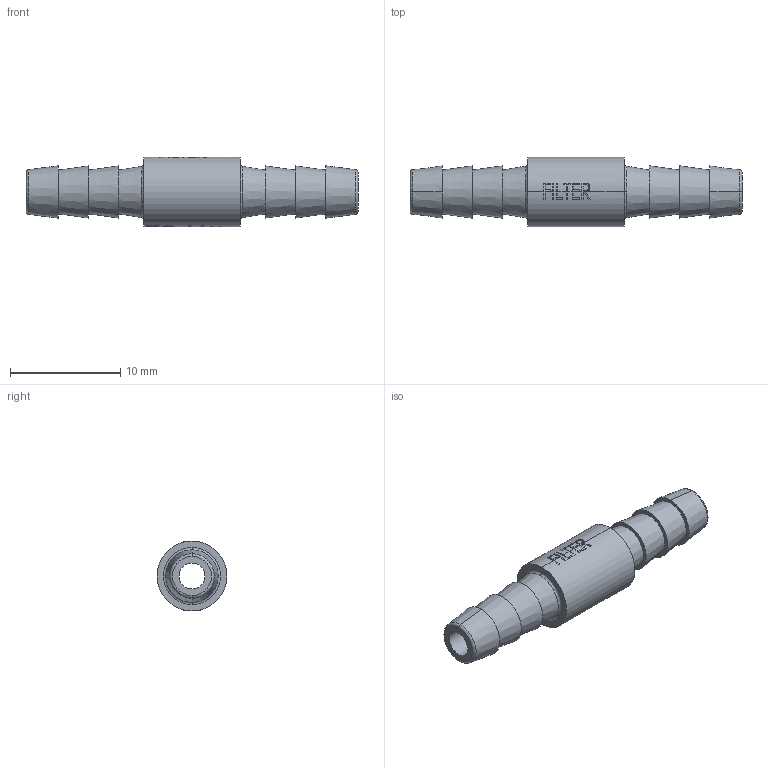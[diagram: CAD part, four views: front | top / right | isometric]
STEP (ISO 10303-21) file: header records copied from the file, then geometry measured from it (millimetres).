
FILE_DESCRIPTION(/* description */ ('SolidWorks IGES file using NURBS representation for surfaces '),/* implementation_level */ '2;1');
FILE_NAME(/* name */ 'K:\Normteile INVENTOR\Air-Logic\Filters\F-950-73-B85.IGS.ipt.stp',/* time_stamp */ '2020-05-27T10:39:52+02:00',/* author */ ('amarsh'),/* organization */ (''),/* preprocessor_version */ 'ST-DEVELOPER v18',/* originating_system */ 'Autodesk Inventor 2020',/* authorisation */ '');
FILE_SCHEMA (('AUTOMOTIVE_DESIGN { 1 0 10303 214 3 1 1 }'));
Length unit declared in the file: millimetre
Products named in the file (1): F-950-73-B85.IGS
Bounding box: 30.15 x 6.35 x 6.35 mm (x, y, z)
Volume: 468.4 mm3; surface area: 768.4 mm2
Topology: 1 solids, 1 shells, 163 faces, 464 edges, 312 vertices
Faces by surface type: plane 76, bspline 46, cylinder 23, cone 10, torus 8
Full cylindrical faces by diameter (mm): 2.36 x1
Entity records: 8892 total; most frequent: CARTESIAN_POINT 4731, ORIENTED_EDGE 928, DIRECTION 771, EDGE_CURVE 464, VERTEX_POINT 312, AXIS2_PLACEMENT_3D 277, LINE 217, VECTOR 217
